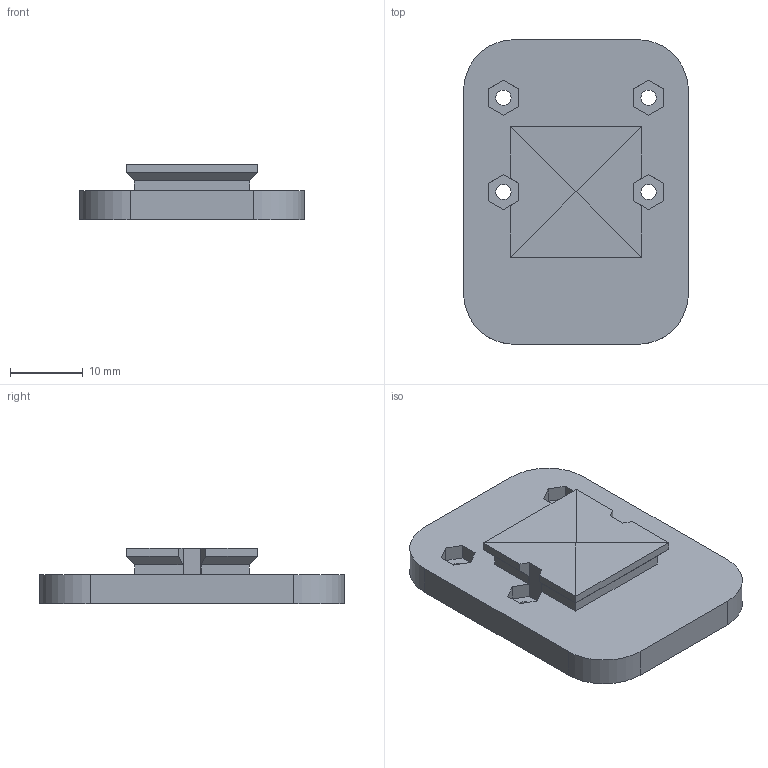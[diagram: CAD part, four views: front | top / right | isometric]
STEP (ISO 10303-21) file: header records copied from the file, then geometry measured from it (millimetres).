
FILE_DESCRIPTION(/* description */ (''),/* implementation_level */ '2;1');
FILE_NAME(/* name */ 'Lygion_Mounting_Plate_SO101.step',/* time_stamp */ '2025-10-20T12:43:04+08:00',/* author */ (''),/* organization */ (''),/* preprocessor_version */ 'ST-DEVELOPER v20.1',/* originating_system */ 'Autodesk Translation Framework v14.17.0.0',/* authorisation */ '');
FILE_SCHEMA (('AUTOMOTIVE_DESIGN { 1 0 10303 214 3 1 1 }'));
Length unit declared in the file: millimetre
Products named in the file (1): WaveShare_Mounting_Plate_SO101
Bounding box: 31 x 42 x 7.6 mm (x, y, z)
Volume: 5903.1 mm3; surface area: 3544.3 mm2
Topology: 1 solids, 1 shells, 63 faces, 164 edges, 106 vertices
Faces by surface type: plane 55, cylinder 8
Full cylindrical faces by diameter (mm): 2.1 x4
Entity records: 1950 total; most frequent: CARTESIAN_POINT 334, ORIENTED_EDGE 328, DIRECTION 308, EDGE_CURVE 164, LINE 148, VECTOR 148, VERTEX_POINT 106, AXIS2_PLACEMENT_3D 80
